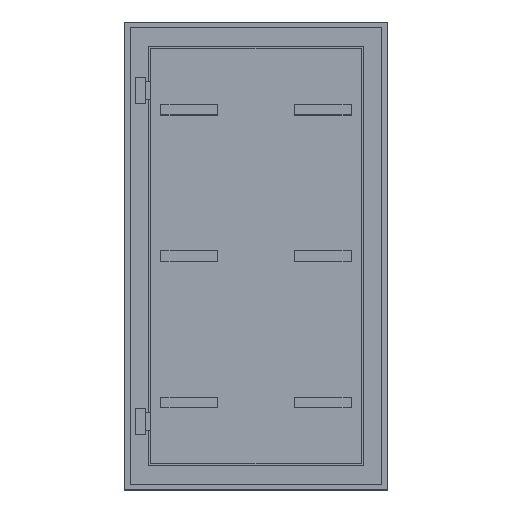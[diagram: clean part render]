
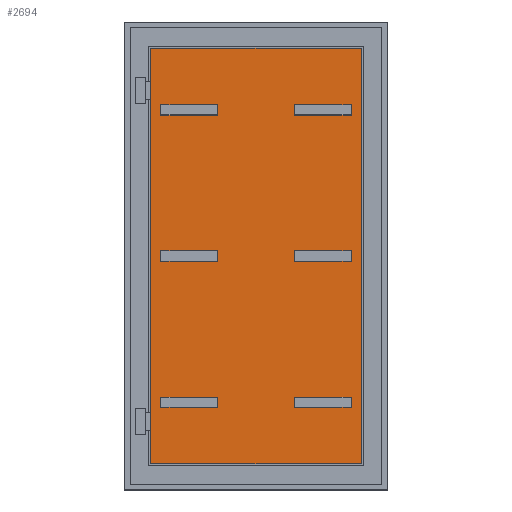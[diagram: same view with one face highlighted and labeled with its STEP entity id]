
A CAD part, top view. The second image highlights one B-rep face of the part: STEP entity #2694.
In plain terms, the highlighted planar face has unit normal (0, 0, 1).
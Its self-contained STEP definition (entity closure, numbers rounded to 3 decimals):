
#643=DIRECTION('',(0.,-1.,0.));
#644=VECTOR('',#643,2032.);
#645=CARTESIAN_POINT('',(-516.,1016.,-41.));
#646=LINE('',#645,#644);
#647=DIRECTION('',(-1.,0.,0.));
#648=VECTOR('',#647,1032.);
#649=CARTESIAN_POINT('',(516.,1016.,-41.));
#650=LINE('',#649,#648);
#651=DIRECTION('',(0.,1.,0.));
#652=VECTOR('',#651,2032.);
#653=CARTESIAN_POINT('',(516.,-1016.,-41.));
#654=LINE('',#653,#652);
#655=DIRECTION('',(1.,0.,0.));
#656=VECTOR('',#655,1032.);
#657=CARTESIAN_POINT('',(-516.,-1016.,-41.));
#658=LINE('',#657,#656);
#659=DIRECTION('',(1.,0.,0.));
#660=VECTOR('',#659,275.);
#661=CARTESIAN_POINT('',(-465.,690.,-41.));
#662=LINE('',#661,#660);
#663=DIRECTION('',(0.,1.,0.));
#664=VECTOR('',#663,50.);
#665=CARTESIAN_POINT('',(-190.,690.,-41.));
#666=LINE('',#665,#664);
#667=DIRECTION('',(1.,0.,0.));
#668=VECTOR('',#667,275.);
#669=CARTESIAN_POINT('',(-465.,740.,-41.));
#670=LINE('',#669,#668);
#671=DIRECTION('',(0.,1.,0.));
#672=VECTOR('',#671,50.);
#673=CARTESIAN_POINT('',(-465.,690.,-41.));
#674=LINE('',#673,#672);
#675=DIRECTION('',(1.,0.,0.));
#676=VECTOR('',#675,275.);
#677=CARTESIAN_POINT('',(190.,690.,-41.));
#678=LINE('',#677,#676);
#679=DIRECTION('',(0.,1.,0.));
#680=VECTOR('',#679,50.);
#681=CARTESIAN_POINT('',(465.,690.,-41.));
#682=LINE('',#681,#680);
#683=DIRECTION('',(1.,0.,0.));
#684=VECTOR('',#683,275.);
#685=CARTESIAN_POINT('',(190.,740.,-41.));
#686=LINE('',#685,#684);
#687=DIRECTION('',(0.,1.,0.));
#688=VECTOR('',#687,50.);
#689=CARTESIAN_POINT('',(190.,690.,-41.));
#690=LINE('',#689,#688);
#691=DIRECTION('',(0.,-1.,0.));
#692=VECTOR('',#691,50.);
#693=CARTESIAN_POINT('',(190.,25.,-41.));
#694=LINE('',#693,#692);
#695=DIRECTION('',(1.,0.,0.));
#696=VECTOR('',#695,275.);
#697=CARTESIAN_POINT('',(190.,-25.,-41.));
#698=LINE('',#697,#696);
#699=DIRECTION('',(0.,1.,0.));
#700=VECTOR('',#699,50.);
#701=CARTESIAN_POINT('',(465.,-25.,-41.));
#702=LINE('',#701,#700);
#703=DIRECTION('',(-1.,0.,0.));
#704=VECTOR('',#703,275.);
#705=CARTESIAN_POINT('',(465.,25.,-41.));
#706=LINE('',#705,#704);
#707=DIRECTION('',(-1.,0.,0.));
#708=VECTOR('',#707,275.);
#709=CARTESIAN_POINT('',(-190.,25.,-41.));
#710=LINE('',#709,#708);
#711=DIRECTION('',(0.,-1.,0.));
#712=VECTOR('',#711,50.);
#713=CARTESIAN_POINT('',(-465.,25.,-41.));
#714=LINE('',#713,#712);
#715=DIRECTION('',(1.,0.,0.));
#716=VECTOR('',#715,275.);
#717=CARTESIAN_POINT('',(-465.,-25.,-41.));
#718=LINE('',#717,#716);
#719=DIRECTION('',(0.,1.,0.));
#720=VECTOR('',#719,50.);
#721=CARTESIAN_POINT('',(-190.,-25.,-41.));
#722=LINE('',#721,#720);
#723=DIRECTION('',(0.,-1.,0.));
#724=VECTOR('',#723,50.);
#725=CARTESIAN_POINT('',(190.,-690.,-41.));
#726=LINE('',#725,#724);
#727=DIRECTION('',(1.,0.,0.));
#728=VECTOR('',#727,275.);
#729=CARTESIAN_POINT('',(190.,-740.,-41.));
#730=LINE('',#729,#728);
#731=DIRECTION('',(0.,1.,0.));
#732=VECTOR('',#731,50.);
#733=CARTESIAN_POINT('',(465.,-740.,-41.));
#734=LINE('',#733,#732);
#735=DIRECTION('',(-1.,0.,0.));
#736=VECTOR('',#735,275.);
#737=CARTESIAN_POINT('',(465.,-690.,-41.));
#738=LINE('',#737,#736);
#739=DIRECTION('',(-1.,0.,0.));
#740=VECTOR('',#739,275.);
#741=CARTESIAN_POINT('',(-190.,-690.,-41.));
#742=LINE('',#741,#740);
#743=DIRECTION('',(0.,-1.,0.));
#744=VECTOR('',#743,50.);
#745=CARTESIAN_POINT('',(-465.,-690.,-41.));
#746=LINE('',#745,#744);
#747=DIRECTION('',(1.,0.,0.));
#748=VECTOR('',#747,275.);
#749=CARTESIAN_POINT('',(-465.,-740.,-41.));
#750=LINE('',#749,#748);
#751=DIRECTION('',(0.,1.,0.));
#752=VECTOR('',#751,50.);
#753=CARTESIAN_POINT('',(-190.,-740.,-41.));
#754=LINE('',#753,#752);
#1375=CARTESIAN_POINT('',(-516.,1016.,-41.));
#1376=CARTESIAN_POINT('',(-516.,-1016.,-41.));
#1377=VERTEX_POINT('',#1375);
#1378=VERTEX_POINT('',#1376);
#1379=CARTESIAN_POINT('',(516.,-1016.,-41.));
#1380=VERTEX_POINT('',#1379);
#1381=CARTESIAN_POINT('',(516.,1016.,-41.));
#1382=VERTEX_POINT('',#1381);
#1647=CARTESIAN_POINT('',(-465.,690.,-41.));
#1648=CARTESIAN_POINT('',(-190.,690.,-41.));
#1649=VERTEX_POINT('',#1647);
#1650=VERTEX_POINT('',#1648);
#1651=CARTESIAN_POINT('',(190.,690.,-41.));
#1652=CARTESIAN_POINT('',(465.,690.,-41.));
#1653=VERTEX_POINT('',#1651);
#1654=VERTEX_POINT('',#1652);
#1655=CARTESIAN_POINT('',(-465.,740.,-41.));
#1656=CARTESIAN_POINT('',(-190.,740.,-41.));
#1657=VERTEX_POINT('',#1655);
#1658=VERTEX_POINT('',#1656);
#1659=CARTESIAN_POINT('',(190.,740.,-41.));
#1660=CARTESIAN_POINT('',(465.,740.,-41.));
#1661=VERTEX_POINT('',#1659);
#1662=VERTEX_POINT('',#1660);
#1711=CARTESIAN_POINT('',(190.,25.,-41.));
#1712=CARTESIAN_POINT('',(190.,-25.,-41.));
#1713=VERTEX_POINT('',#1711);
#1714=VERTEX_POINT('',#1712);
#1715=CARTESIAN_POINT('',(465.,-25.,-41.));
#1716=VERTEX_POINT('',#1715);
#1717=CARTESIAN_POINT('',(465.,25.,-41.));
#1718=VERTEX_POINT('',#1717);
#1719=CARTESIAN_POINT('',(-190.,25.,-41.));
#1720=CARTESIAN_POINT('',(-465.,25.,-41.));
#1721=VERTEX_POINT('',#1719);
#1722=VERTEX_POINT('',#1720);
#1723=CARTESIAN_POINT('',(-465.,-25.,-41.));
#1724=VERTEX_POINT('',#1723);
#1725=CARTESIAN_POINT('',(-190.,-25.,-41.));
#1726=VERTEX_POINT('',#1725);
#1775=CARTESIAN_POINT('',(190.,-690.,-41.));
#1776=CARTESIAN_POINT('',(190.,-740.,-41.));
#1777=VERTEX_POINT('',#1775);
#1778=VERTEX_POINT('',#1776);
#1779=CARTESIAN_POINT('',(465.,-740.,-41.));
#1780=VERTEX_POINT('',#1779);
#1781=CARTESIAN_POINT('',(465.,-690.,-41.));
#1782=VERTEX_POINT('',#1781);
#1783=CARTESIAN_POINT('',(-190.,-690.,-41.));
#1784=CARTESIAN_POINT('',(-465.,-690.,-41.));
#1785=VERTEX_POINT('',#1783);
#1786=VERTEX_POINT('',#1784);
#1787=CARTESIAN_POINT('',(-465.,-740.,-41.));
#1788=VERTEX_POINT('',#1787);
#1789=CARTESIAN_POINT('',(-190.,-740.,-41.));
#1790=VERTEX_POINT('',#1789);
#2625=CARTESIAN_POINT('',(0.,0.,-41.));
#2626=DIRECTION('',(0.,0.,1.));
#2627=DIRECTION('',(1.,0.,0.));
#2628=AXIS2_PLACEMENT_3D('',#2625,#2626,#2627);
#2629=PLANE('',#2628);
#2631=ORIENTED_EDGE('',*,*,#2630,.F.);
#2633=ORIENTED_EDGE('',*,*,#2632,.F.);
#2635=ORIENTED_EDGE('',*,*,#2634,.F.);
#2637=ORIENTED_EDGE('',*,*,#2636,.F.);
#2638=EDGE_LOOP('',(#2631,#2633,#2635,#2637));
#2639=FACE_OUTER_BOUND('',#2638,.F.);
#2640=ORIENTED_EDGE('',*,*,#2393,.T.);
#2641=ORIENTED_EDGE('',*,*,#2460,.T.);
#2642=ORIENTED_EDGE('',*,*,#2525,.F.);
#2643=ORIENTED_EDGE('',*,*,#2590,.F.);
#2644=EDGE_LOOP('',(#2640,#2641,#2642,#2643));
#2645=FACE_BOUND('',#2644,.F.);
#2646=ORIENTED_EDGE('',*,*,#2416,.T.);
#2648=ORIENTED_EDGE('',*,*,#2647,.T.);
#2649=ORIENTED_EDGE('',*,*,#2547,.F.);
#2651=ORIENTED_EDGE('',*,*,#2650,.F.);
#2652=EDGE_LOOP('',(#2646,#2648,#2649,#2651));
#2653=FACE_BOUND('',#2652,.F.);
#2655=ORIENTED_EDGE('',*,*,#2654,.T.);
#2657=ORIENTED_EDGE('',*,*,#2656,.T.);
#2659=ORIENTED_EDGE('',*,*,#2658,.T.);
#2661=ORIENTED_EDGE('',*,*,#2660,.T.);
#2662=EDGE_LOOP('',(#2655,#2657,#2659,#2661));
#2663=FACE_BOUND('',#2662,.F.);
#2665=ORIENTED_EDGE('',*,*,#2664,.T.);
#2667=ORIENTED_EDGE('',*,*,#2666,.T.);
#2669=ORIENTED_EDGE('',*,*,#2668,.T.);
#2671=ORIENTED_EDGE('',*,*,#2670,.T.);
#2672=EDGE_LOOP('',(#2665,#2667,#2669,#2671));
#2673=FACE_BOUND('',#2672,.F.);
#2675=ORIENTED_EDGE('',*,*,#2674,.T.);
#2677=ORIENTED_EDGE('',*,*,#2676,.T.);
#2679=ORIENTED_EDGE('',*,*,#2678,.T.);
#2681=ORIENTED_EDGE('',*,*,#2680,.T.);
#2682=EDGE_LOOP('',(#2675,#2677,#2679,#2681));
#2683=FACE_BOUND('',#2682,.F.);
#2685=ORIENTED_EDGE('',*,*,#2684,.T.);
#2687=ORIENTED_EDGE('',*,*,#2686,.T.);
#2689=ORIENTED_EDGE('',*,*,#2688,.T.);
#2691=ORIENTED_EDGE('',*,*,#2690,.T.);
#2692=EDGE_LOOP('',(#2685,#2687,#2689,#2691));
#2693=FACE_BOUND('',#2692,.F.);
#2393=EDGE_CURVE('',#1649,#1650,#662,.T.);
#2416=EDGE_CURVE('',#1653,#1654,#678,.T.);
#2460=EDGE_CURVE('',#1650,#1658,#666,.T.);
#2525=EDGE_CURVE('',#1657,#1658,#670,.T.);
#2547=EDGE_CURVE('',#1661,#1662,#686,.T.);
#2590=EDGE_CURVE('',#1649,#1657,#674,.T.);
#2630=EDGE_CURVE('',#1377,#1378,#646,.T.);
#2632=EDGE_CURVE('',#1382,#1377,#650,.T.);
#2634=EDGE_CURVE('',#1380,#1382,#654,.T.);
#2636=EDGE_CURVE('',#1378,#1380,#658,.T.);
#2647=EDGE_CURVE('',#1654,#1662,#682,.T.);
#2650=EDGE_CURVE('',#1653,#1661,#690,.T.);
#2654=EDGE_CURVE('',#1713,#1714,#694,.T.);
#2656=EDGE_CURVE('',#1714,#1716,#698,.T.);
#2658=EDGE_CURVE('',#1716,#1718,#702,.T.);
#2660=EDGE_CURVE('',#1718,#1713,#706,.T.);
#2664=EDGE_CURVE('',#1721,#1722,#710,.T.);
#2666=EDGE_CURVE('',#1722,#1724,#714,.T.);
#2668=EDGE_CURVE('',#1724,#1726,#718,.T.);
#2670=EDGE_CURVE('',#1726,#1721,#722,.T.);
#2674=EDGE_CURVE('',#1777,#1778,#726,.T.);
#2676=EDGE_CURVE('',#1778,#1780,#730,.T.);
#2678=EDGE_CURVE('',#1780,#1782,#734,.T.);
#2680=EDGE_CURVE('',#1782,#1777,#738,.T.);
#2684=EDGE_CURVE('',#1785,#1786,#742,.T.);
#2686=EDGE_CURVE('',#1786,#1788,#746,.T.);
#2688=EDGE_CURVE('',#1788,#1790,#750,.T.);
#2690=EDGE_CURVE('',#1790,#1785,#754,.T.);
#2694=ADVANCED_FACE('',(#2639,#2645,#2653,#2663,#2673,#2683,#2693),#2629,.T.);
